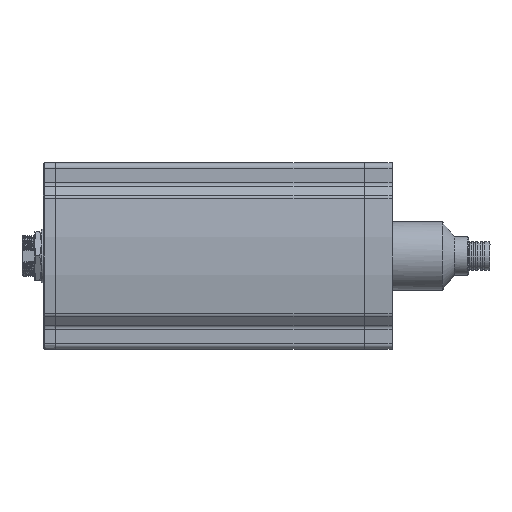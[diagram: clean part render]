
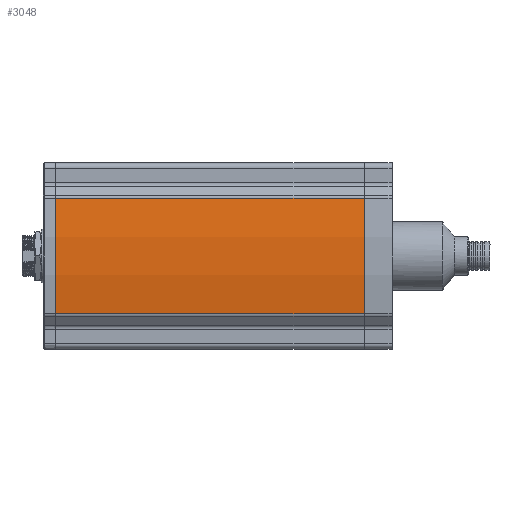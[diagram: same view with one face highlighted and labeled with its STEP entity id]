
A CAD part, front view. The second image highlights one B-rep face of the part: STEP entity #3048.
In plain terms, the highlighted cylindrical face has radius 165.451 mm (diameter 330.901 mm), a partial arc.
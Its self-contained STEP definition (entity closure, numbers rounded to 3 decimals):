
#1608=CYLINDRICAL_SURFACE('',#26460,165.451);
#3048=ADVANCED_FACE('',(#4782),#1608,.T.);
#4782=FACE_OUTER_BOUND('',#6550,.T.);
#6550=EDGE_LOOP('',(#12892,#12893,#12894,#12895));
#12892=ORIENTED_EDGE('',*,*,#18985,.T.);
#12893=ORIENTED_EDGE('',*,*,#19100,.F.);
#12894=ORIENTED_EDGE('',*,*,#18743,.T.);
#12895=ORIENTED_EDGE('',*,*,#19101,.F.);
#15504=VERTEX_POINT('',#81183);
#15505=VERTEX_POINT('',#81185);
#15744=VERTEX_POINT('',#81666);
#15745=VERTEX_POINT('',#81668);
#18743=EDGE_CURVE('',#15505,#15504,#21370,.T.);
#18985=EDGE_CURVE('',#15745,#15744,#21545,.T.);
#19100=EDGE_CURVE('',#15505,#15744,#22686,.T.);
#19101=EDGE_CURVE('',#15745,#15504,#22687,.T.);
#21370=CIRCLE('',#26200,165.451);
#21545=CIRCLE('',#26376,165.451);
#22686=LINE('',#81890,#24061);
#22687=LINE('',#81891,#24062);
#24061=VECTOR('',#31936,1.);
#24062=VECTOR('',#31937,1.);
#26200=AXIS2_PLACEMENT_3D('',#81184,#31308,#31309);
#26376=AXIS2_PLACEMENT_3D('',#81667,#31727,#31728);
#26460=AXIS2_PLACEMENT_3D('',#81892,#31938,#31939);
#31308=DIRECTION('',(1.,0.,0.));
#31309=DIRECTION('',(0.,-0.987,0.158));
#31727=DIRECTION('',(-1.,0.,0.));
#31728=DIRECTION('',(0.,-0.987,-0.158));
#31936=DIRECTION('',(1.,0.,0.));
#31937=DIRECTION('',(-1.,0.,0.));
#31938=DIRECTION('',(-1.,0.,0.));
#31939=DIRECTION('',(0.,0.987,0.158));
#81183=CARTESIAN_POINT('',(-70.,-32.707,-26.212));
#81184=CARTESIAN_POINT('',(-70.,130.654,0.));
#81185=CARTESIAN_POINT('',(-70.,-32.707,26.212));
#81666=CARTESIAN_POINT('',(70.,-32.707,26.212));
#81667=CARTESIAN_POINT('',(70.,130.654,0.));
#81668=CARTESIAN_POINT('',(70.,-32.707,-26.212));
#81890=CARTESIAN_POINT('',(-70.,-32.707,26.212));
#81891=CARTESIAN_POINT('',(70.,-32.707,-26.212));
#81892=CARTESIAN_POINT('',(0.,130.654,0.));
